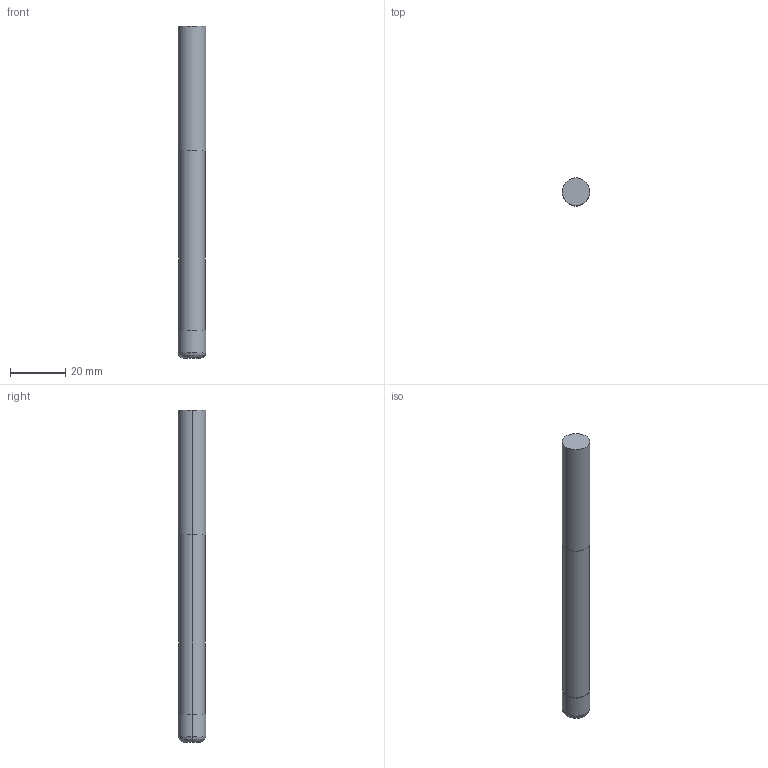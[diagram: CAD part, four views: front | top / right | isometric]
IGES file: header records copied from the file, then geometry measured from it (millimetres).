
Start section: 3D InterOp IGES (v. 2020 1.0.1), Spatial Corp. Copyright (c) 1999-2017.
Global section: file name: WZF17428_10_2.igs; native system: Spatial Corp.; preprocessor: 3D InterOp GENERIC/IGES 3.0; author: Noname; organization: Noname; date: 20201007.092732; units: metre
Bounding box: 10 x 10 x 120 mm (x, y, z)
Surface area: 3811.5 mm2 (no closed solid volume)
Topology: 0 solids, 0 shells, 12 faces, 44 edges, 44 vertices
Faces by surface type: revolution 8, extrusion 4
